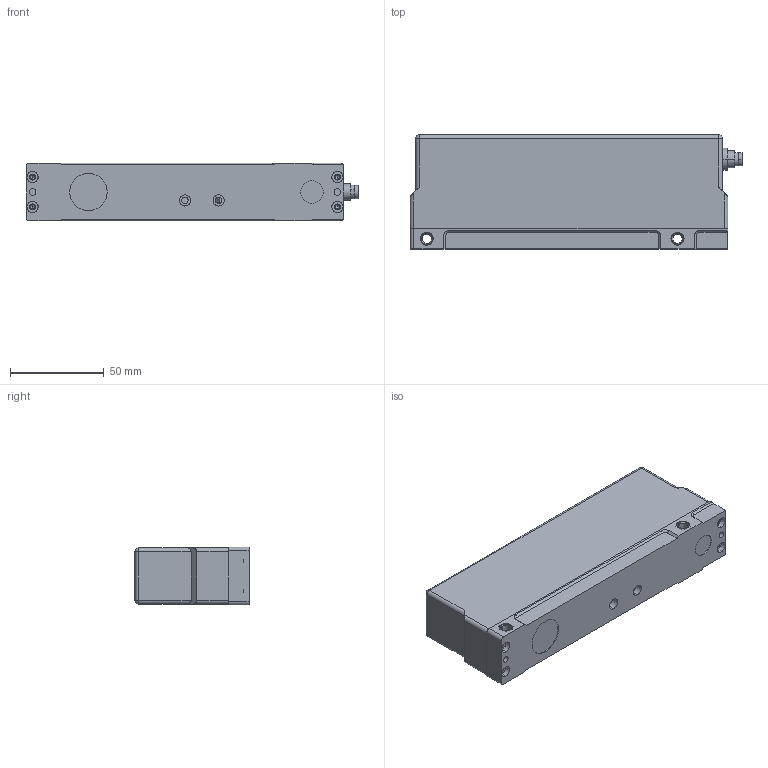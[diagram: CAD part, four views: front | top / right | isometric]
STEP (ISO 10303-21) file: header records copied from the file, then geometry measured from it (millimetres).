
FILE_DESCRIPTION (( 'STEP AP203' ), '1' );
FILE_NAME ('ÐÔ 600_DEMO b.STEP', '2012-09-03T13:17:55', ( 'Serg' ), ( '' ), 'SwSTEP 2.0', 'SolidWorks 2012', '' );
FILE_SCHEMA (( 'CONFIG_CONTROL_DESIGN' ));
Length unit declared in the file: millimetre
Products named in the file (7): 俶 600_DEMO b; Raz_09_0427_80_08; 俶.602.00.013; 俶.602.00.002; ïëàòà ñ ÏÇÑ New; RF603 ïëàòà; 俶.602.00.071 DEMO
Assembly tree (9 placements, depth 2):
  俶 600_DEMO b
    俶.602.00.071 DEMO
    RF603 ïëàòà
    ïëàòà ñ ÏÇÑ New
    俶.602.00.002  x4
    俶.602.00.013
    Raz_09_0427_80_08
Bounding box: 177.5 x 61 x 31 mm (x, y, z)
Volume: 101545.1 mm3; surface area: 71713.2 mm2
Topology: 9 solids, 9 shells, 453 faces, 1110 edges, 708 vertices
Faces by surface type: cylinder 199, plane 184, cone 66, sphere 4
Entity records: 13339 total; most frequent: CARTESIAN_POINT 2381, DIRECTION 2218, ORIENTED_EDGE 2028, EDGE_CURVE 1014, AXIS2_PLACEMENT_3D 819, VERTEX_POINT 660, LINE 580, VECTOR 580
